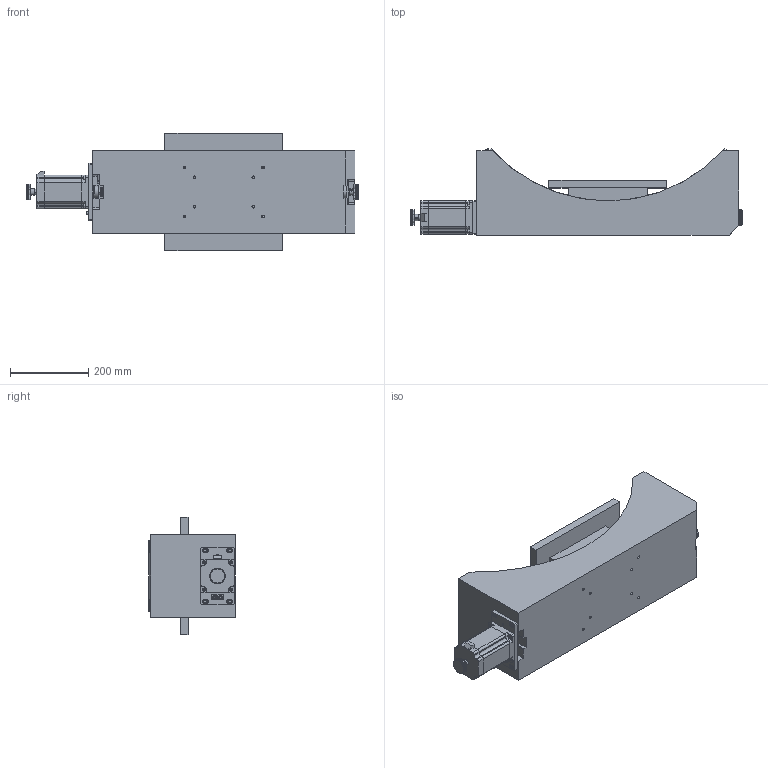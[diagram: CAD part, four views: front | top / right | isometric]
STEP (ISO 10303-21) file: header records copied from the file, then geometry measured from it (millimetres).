
FILE_DESCRIPTION (( 'STEP AP203' ), '1' );
FILE_NAME ('PT-GD330×°Åä.STEP', '2025-09-10T10:05:34', ( '' ), ( '' ), 'SwSTEP 2.0', 'SolidWorks 2023', '' );
FILE_SCHEMA (( 'CONFIG_CONTROL_DESIGN' ));
Length unit declared in the file: millimetre
Products named in the file (20): PT-GD330涡轮; PT-GD330装配; GS-32-28-08-08单膜片联轴器; PT-GD330-02台面; PT-GD330导轨L; PT-GD330-01底座; GB／T276-94深沟球轴承61801-2Z; GB／T70．1-2000内六角圆柱头螺钉M6×16; PT-GD330导轨R; 9针座; SST86D5605; PT-GD330轴承座; PT-GD330轴承座螺帽; MVR6限位堵头; GB／T70．1-2000内六角圆柱头螺钉M6×12; PT-GD250手轮; 86电机座; 9针座螺钉; PT-GD330-03蜗杆; GB／T 70．1-2000[内六角圆柱头螺钉M4×16]
Assembly tree (41 placements, depth 2):
  PT-GD330装配
    PT-GD330-01底座
    PT-GD330涡轮
    PT-GD330-02台面
    GB／T276-94深沟球轴承61801-2Z  x2
    PT-GD330-03蜗杆
    SST86D5605
    86电机座
    PT-GD330轴承座  x2
    PT-GD330轴承座螺帽  x2
    GS-32-28-08-08单膜片联轴器
    PT-GD330导轨L  x2
    PT-GD330导轨R  x2
    PT-GD250手轮  x2
    MVR6限位堵头  x7
    GB／T 70．1-2000[内六角圆柱头螺钉M4×16]  x4
    GB／T70．1-2000内六角圆柱头螺钉M6×16  x4
    GB／T70．1-2000内六角圆柱头螺钉M6×12  x4
    9针座
    9针座螺钉  x2
Bounding box: 846 x 219.94 x 300 mm (x, y, z)
Volume: 20425839.5 mm3; surface area: 1621048.6 mm2
Topology: 45 solids, 45 shells, 4640 faces, 12923 edges, 8443 vertices
Faces by surface type: plane 1650, cylinder 1348, bspline 1020, sphere 238, cone 228, torus 156
Entity records: 208750 total; most frequent: CARTESIAN_POINT 133171, ORIENTED_EDGE 18110, DIRECTION 10990, EDGE_CURVE 9055, VERTEX_POINT 5966, AXIS2_PLACEMENT_3D 3894, B_SPLINE_CURVE_WITH_KNOTS 3823, EDGE_LOOP 3623
